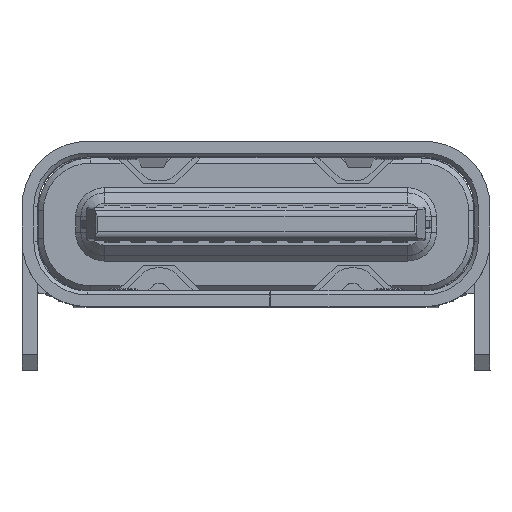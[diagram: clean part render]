
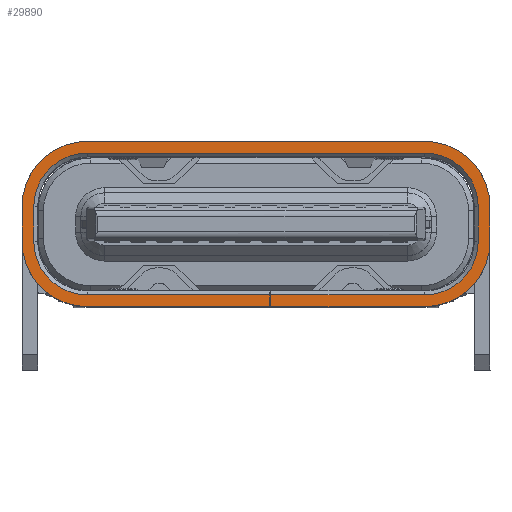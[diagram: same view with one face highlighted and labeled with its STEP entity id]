
A CAD part, top view. The second image highlights one B-rep face of the part: STEP entity #29890.
In plain terms, the highlighted planar face has unit normal (0, 0, 1).
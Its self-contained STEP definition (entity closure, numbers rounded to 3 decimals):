
#1600=CARTESIAN_POINT('',(2.97,1.58,
0.35));
#1610=VERTEX_POINT('',#1600);
#1640=CARTESIAN_POINT('',(-3.47,1.58,
0.35));
#1650=DIRECTION('',(1.,0.,0.));
#1660=VECTOR('',#1650,1.);
#1670=LINE('',#1640,#1660);
#1680=CARTESIAN_POINT('',(-3.47,1.58,0.35));
#1690=VERTEX_POINT('',#1680);
#1700=EDGE_CURVE('',#1690,#1610,#1670,.T.);
#26520=CARTESIAN_POINT('',(-3.47,0.33,
0.35));
#26530=DIRECTION('',(0.,0.,1.));
#26540=DIRECTION('',(0.,1.,0.));
#26550=AXIS2_PLACEMENT_3D('',#26520,#26530,#26540);
#26560=CIRCLE('',#26550,1.25);
#26570=CARTESIAN_POINT('',(-4.72,0.33,
0.35));
#26580=VERTEX_POINT('',#26570);
#26590=EDGE_CURVE('',#1690,#26580,#26560,.T.);
#28310=CARTESIAN_POINT('',(-5.379,-2.406,
0.35));
#28320=DIRECTION('',(0.,0.,-1.));
#28330=DIRECTION('',(1.,0.,0.));
#28340=AXIS2_PLACEMENT_3D('',#28310,#28320,#28330);
#28350=PLANE('',#28340);
#28360=CARTESIAN_POINT('',(0.01,-1.355,
0.35));
#28370=DIRECTION('',(0.,-1.,0.));
#28380=VECTOR('',#28370,1.);
#28390=LINE('',#28360,#28380);
#28400=CARTESIAN_POINT('',(0.01,-1.355,
0.35));
#28410=VERTEX_POINT('',#28400);
#28420=CARTESIAN_POINT('',(0.01,-1.58,
0.35));
#28430=VERTEX_POINT('',#28420);
#28440=EDGE_CURVE('',#28410,#28430,#28390,.T.);
#28450=ORIENTED_EDGE('',*,*,#28440,.F.);
#28460=CARTESIAN_POINT('',(-3.47,-1.58,
0.35));
#28470=DIRECTION('',(1.,0.,0.));
#28480=VECTOR('',#28470,1.);
#28490=LINE('',#28460,#28480);
#28500=CARTESIAN_POINT('',(-3.47,-1.58,
0.35));
#28510=VERTEX_POINT('',#28500);
#28520=EDGE_CURVE('',#28510,#28430,#28490,.T.);
#28530=ORIENTED_EDGE('',*,*,#28520,.T.);
#28540=CARTESIAN_POINT('',(-3.47,-0.33,
0.35));
#28550=DIRECTION('',(0.,0.,1.));
#28560=DIRECTION('',(-1.,0.,0.));
#28570=AXIS2_PLACEMENT_3D('',#28540,#28550,#28560);
#28580=CIRCLE('',#28570,1.25);
#28590=CARTESIAN_POINT('',(-4.72,-0.33,
0.35));
#28600=VERTEX_POINT('',#28590);
#28610=EDGE_CURVE('',#28600,#28510,#28580,.T.);
#28620=ORIENTED_EDGE('',*,*,#28610,.T.);
#28630=CARTESIAN_POINT('',(-4.72,-0.33,
0.35));
#28640=DIRECTION('',(0.,1.,0.));
#28650=VECTOR('',#28640,1.);
#28660=LINE('',#28630,#28650);
#28670=EDGE_CURVE('',#28600,#26580,#28660,.T.);
#28680=ORIENTED_EDGE('',*,*,#28670,.F.);
#28690=ORIENTED_EDGE('',*,*,#26590,.T.);
#28700=ORIENTED_EDGE('',*,*,#1700,.F.);
#28710=CARTESIAN_POINT('',(2.97,0.33,
0.35));
#28720=DIRECTION('',(0.,0.,1.));
#28730=DIRECTION('',(1.,0.,0.));
#28740=AXIS2_PLACEMENT_3D('',#28710,#28720,#28730);
#28750=CIRCLE('',#28740,1.25);
#28760=CARTESIAN_POINT('',(4.22,0.33,
0.35));
#28770=VERTEX_POINT('',#28760);
#28780=EDGE_CURVE('',#28770,#1610,#28750,.T.);
#28790=ORIENTED_EDGE('',*,*,#28780,.T.);
#28800=CARTESIAN_POINT('',(4.22,-0.33,
0.35));
#28810=DIRECTION('',(0.,1.,0.));
#28820=VECTOR('',#28810,1.);
#28830=LINE('',#28800,#28820);
#28840=CARTESIAN_POINT('',(4.22,-0.33,
0.35));
#28850=VERTEX_POINT('',#28840);
#28860=EDGE_CURVE('',#28850,#28770,#28830,.T.);
#28870=ORIENTED_EDGE('',*,*,#28860,.T.);
#28880=CARTESIAN_POINT('',(2.97,-0.33,
0.35));
#28890=DIRECTION('',(0.,0.,1.));
#28900=DIRECTION('',(0.,-1.,0.));
#28910=AXIS2_PLACEMENT_3D('',#28880,#28890,#28900);
#28920=CIRCLE('',#28910,1.25);
#28930=CARTESIAN_POINT('',(2.97,-1.58,
0.35));
#28940=VERTEX_POINT('',#28930);
#28950=EDGE_CURVE('',#28940,#28850,#28920,.T.);
#28960=ORIENTED_EDGE('',*,*,#28950,.T.);
#28970=CARTESIAN_POINT('',(0.03,-1.58,
0.35));
#28980=DIRECTION('',(1.,0.,0.));
#28990=VECTOR('',#28980,1.);
#29000=LINE('',#28970,#28990);
#29010=CARTESIAN_POINT('',(0.03,-1.58,
0.35));
#29020=VERTEX_POINT('',#29010);
#29030=EDGE_CURVE('',#29020,#28940,#29000,.T.);
#29040=ORIENTED_EDGE('',*,*,#29030,.T.);
#29050=CARTESIAN_POINT('',(0.03,-1.58,
0.35));
#29060=DIRECTION('',(0.,1.,0.));
#29070=VECTOR('',#29060,1.);
#29080=LINE('',#29050,#29070);
#29090=CARTESIAN_POINT('',(0.03,-1.355,
0.35));
#29100=VERTEX_POINT('',#29090);
#29110=EDGE_CURVE('',#29020,#29100,#29080,.T.);
#29120=ORIENTED_EDGE('',*,*,#29110,.F.);
#29130=CARTESIAN_POINT('',(0.03,-1.355,
0.35));
#29140=DIRECTION('',(1.,0.,0.));
#29150=VECTOR('',#29140,1.);
#29160=LINE('',#29130,#29150);
#29170=CARTESIAN_POINT('',(2.97,-1.355,
0.35));
#29180=VERTEX_POINT('',#29170);
#29190=EDGE_CURVE('',#29100,#29180,#29160,.T.);
#29200=ORIENTED_EDGE('',*,*,#29190,.F.);
#29210=CARTESIAN_POINT('',(2.97,-0.33,
0.35));
#29220=DIRECTION('',(0.,0.,-1.));
#29230=DIRECTION('',(1.,0.,0.));
#29240=AXIS2_PLACEMENT_3D('',#29210,#29220,#29230);
#29250=CIRCLE('',#29240,1.025);
#29260=CARTESIAN_POINT('',(3.995,-0.33,
0.35));
#29270=VERTEX_POINT('',#29260);
#29280=EDGE_CURVE('',#29270,#29180,#29250,.T.);
#29290=ORIENTED_EDGE('',*,*,#29280,.T.);
#29300=CARTESIAN_POINT('',(3.995,0.33,
0.35));
#29310=DIRECTION('',(0.,-1.,0.));
#29320=VECTOR('',#29310,1.);
#29330=LINE('',#29300,#29320);
#29340=CARTESIAN_POINT('',(3.995,0.33,
0.35));
#29350=VERTEX_POINT('',#29340);
#29360=EDGE_CURVE('',#29350,#29270,#29330,.T.);
#29370=ORIENTED_EDGE('',*,*,#29360,.T.);
#29380=CARTESIAN_POINT('',(2.97,0.33,
0.35));
#29390=DIRECTION('',(0.,0.,-1.));
#29400=DIRECTION('',(0.,1.,0.));
#29410=AXIS2_PLACEMENT_3D('',#29380,#29390,#29400);
#29420=CIRCLE('',#29410,1.025);
#29430=CARTESIAN_POINT('',(2.97,1.355,
0.35));
#29440=VERTEX_POINT('',#29430);
#29450=EDGE_CURVE('',#29440,#29350,#29420,.T.);
#29460=ORIENTED_EDGE('',*,*,#29450,.T.);
#29470=CARTESIAN_POINT('',(-3.47,1.355,
0.35));
#29480=DIRECTION('',(1.,0.,0.));
#29490=VECTOR('',#29480,1.);
#29500=LINE('',#29470,#29490);
#29510=CARTESIAN_POINT('',(-3.47,1.355,
0.35));
#29520=VERTEX_POINT('',#29510);
#29530=EDGE_CURVE('',#29520,#29440,#29500,.T.);
#29540=ORIENTED_EDGE('',*,*,#29530,.T.);
#29550=CARTESIAN_POINT('',(-3.47,0.33,
0.35));
#29560=DIRECTION('',(0.,0.,-1.));
#29570=DIRECTION('',(-1.,0.,0.));
#29580=AXIS2_PLACEMENT_3D('',#29550,#29560,#29570);
#29590=CIRCLE('',#29580,1.025);
#29600=CARTESIAN_POINT('',(-4.495,0.33,
0.35));
#29610=VERTEX_POINT('',#29600);
#29620=EDGE_CURVE('',#29610,#29520,#29590,.T.);
#29630=ORIENTED_EDGE('',*,*,#29620,.T.);
#29640=CARTESIAN_POINT('',(-4.495,0.33,
0.35));
#29650=DIRECTION('',(0.,-1.,0.));
#29660=VECTOR('',#29650,1.);
#29670=LINE('',#29640,#29660);
#29680=CARTESIAN_POINT('',(-4.495,-0.33,
0.35));
#29690=VERTEX_POINT('',#29680);
#29700=EDGE_CURVE('',#29610,#29690,#29670,.T.);
#29710=ORIENTED_EDGE('',*,*,#29700,.F.);
#29720=CARTESIAN_POINT('',(-3.47,-0.33,
0.35));
#29730=DIRECTION('',(0.,0.,-1.));
#29740=DIRECTION('',(0.,-1.,0.));
#29750=AXIS2_PLACEMENT_3D('',#29720,#29730,#29740);
#29760=CIRCLE('',#29750,1.025);
#29770=CARTESIAN_POINT('',(-3.47,-1.355,
0.35));
#29780=VERTEX_POINT('',#29770);
#29790=EDGE_CURVE('',#29780,#29690,#29760,.T.);
#29800=ORIENTED_EDGE('',*,*,#29790,.T.);
#29810=CARTESIAN_POINT('',(0.01,-1.355,
0.35));
#29820=DIRECTION('',(-1.,0.,0.));
#29830=VECTOR('',#29820,1.);
#29840=LINE('',#29810,#29830);
#29850=EDGE_CURVE('',#28410,#29780,#29840,.T.);
#29860=ORIENTED_EDGE('',*,*,#29850,.T.);
#29870=EDGE_LOOP('',(#29860,#29800,#29710,#29630,#29540,#29460,#29370,
#29290,#29200,#29120,#29040,#28960,#28870,#28790,#28700,#28690,#28680,
#28620,#28530,#28450));
#29880=FACE_OUTER_BOUND('',#29870,.T.);
#29890=ADVANCED_FACE('',(#29880),#28350,.F.);
